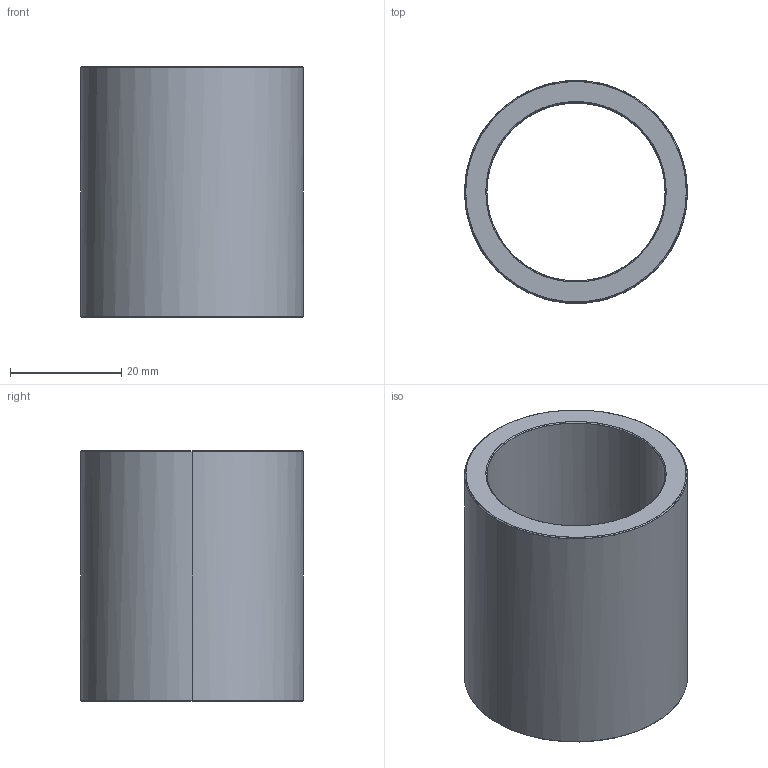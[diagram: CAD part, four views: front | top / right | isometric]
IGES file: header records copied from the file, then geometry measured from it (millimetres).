
Start section: Write IGES format                                    datakit 2008 (c)
Global section: file name: Unknown; native system: DATAKIT Converter; preprocessor: Unknown; author: Unknown; organization: Unknown; date: 950613.180003; units: millimetre
Bounding box: 40 x 39.95 x 45 mm (x, y, z)
Surface area: 11030.5 mm2 (no closed solid volume)
Topology: 0 solids, 0 shells, 14 faces, 56 edges, 56 vertices
Faces by surface type: revolution 12, bspline 2
